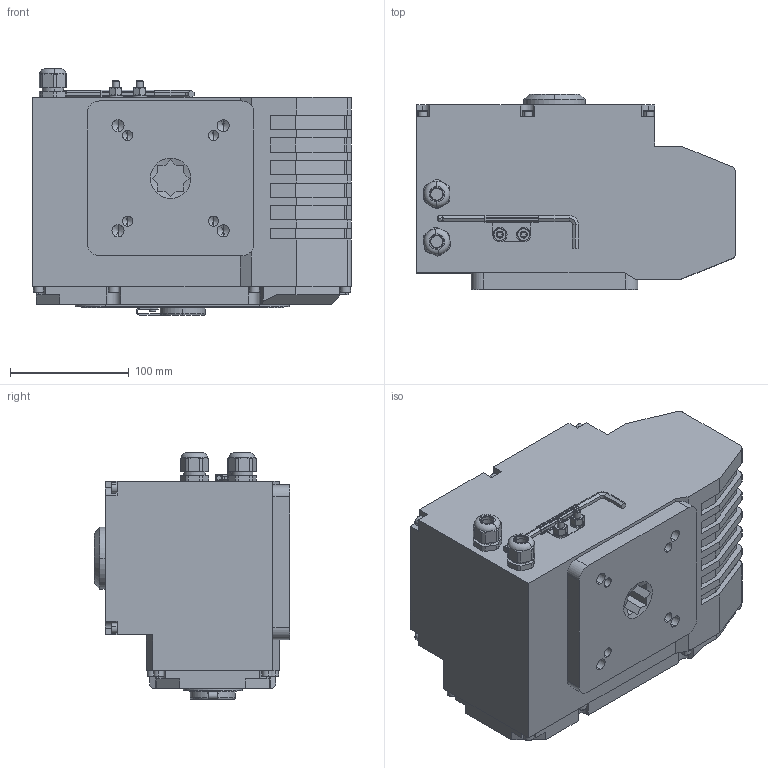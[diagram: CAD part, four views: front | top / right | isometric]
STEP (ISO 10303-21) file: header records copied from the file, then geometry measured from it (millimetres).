
FILE_DESCRIPTION (( 'STEP AP203' ), '1' );
FILE_NAME ('AOX-020-040_3D.STEP', '2020-04-20T08:27:54', ( '' ), ( '' ), 'SwSTEP 2.0', 'SolidWorks 2017', '' );
FILE_SCHEMA (( 'CONFIG_CONTROL_DESIGN' ));
Length unit declared in the file: millimetre
Products named in the file (1): AOX-020-040_3D
Bounding box: 268 x 164 x 207 mm (x, y, z)
Volume: 5915624.8 mm3; surface area: 244049.7 mm2
Topology: 1 solids, 4 shells, 806 faces, 2059 edges, 1268 vertices
Faces by surface type: plane 490, cylinder 169, cone 104, torus 43
Entity records: 24279 total; most frequent: CARTESIAN_POINT 4750, DIRECTION 4080, ORIENTED_EDGE 4022, EDGE_CURVE 2011, AXIS2_PLACEMENT_3D 1378, VECTOR 1324, LINE 1324, VERTEX_POINT 1268
